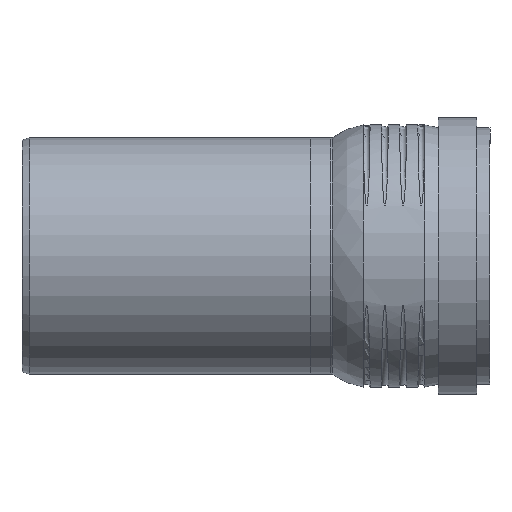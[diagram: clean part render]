
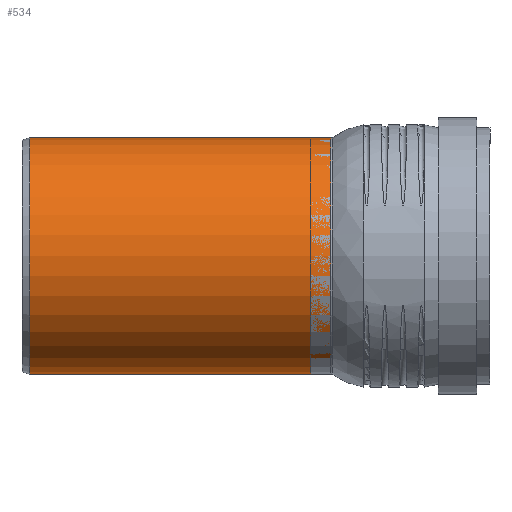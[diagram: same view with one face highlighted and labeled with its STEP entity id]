
A CAD part, top view. The second image highlights one B-rep face of the part: STEP entity #534.
In plain terms, the highlighted cylindrical face has radius 55.1 mm (diameter 110.2 mm), a full revolution.
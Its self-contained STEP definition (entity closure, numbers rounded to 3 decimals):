
#66=CYLINDRICAL_SURFACE('',#580,55.1);
#87=FACE_BOUND('',#158,.T.);
#122=FACE_OUTER_BOUND('',#157,.T.);
#157=EDGE_LOOP('',(#370));
#158=EDGE_LOOP('',(#371));
#222=CIRCLE('',#576,55.1);
#225=CIRCLE('',#581,55.1);
#249=VERTEX_POINT('',#771);
#252=VERTEX_POINT('',#779);
#304=EDGE_CURVE('',#249,#249,#222,.T.);
#307=EDGE_CURVE('',#252,#252,#225,.T.);
#370=ORIENTED_EDGE('',*,*,#307,.F.);
#371=ORIENTED_EDGE('',*,*,#304,.F.);
#534=ADVANCED_FACE('',(#122,#87),#66,.T.);
#576=AXIS2_PLACEMENT_3D('',#772,#643,#644);
#580=AXIS2_PLACEMENT_3D('',#778,#651,#652);
#581=AXIS2_PLACEMENT_3D('',#780,#653,#654);
#643=DIRECTION('center_axis',(-1.,0.,0.));
#644=DIRECTION('ref_axis',(0.,1.,0.));
#651=DIRECTION('center_axis',(1.,0.,0.));
#652=DIRECTION('ref_axis',(0.,1.,0.));
#653=DIRECTION('center_axis',(1.,0.,0.));
#654=DIRECTION('ref_axis',(0.,1.,0.));
#771=CARTESIAN_POINT('',(-68.45,-55.1,0.));
#772=CARTESIAN_POINT('Origin',(-68.45,0.,0.));
#778=CARTESIAN_POINT('Origin',(0.,0.,
0.));
#779=CARTESIAN_POINT('',(71.95,-55.1,0.));
#780=CARTESIAN_POINT('Origin',(71.95,0.,0.));
